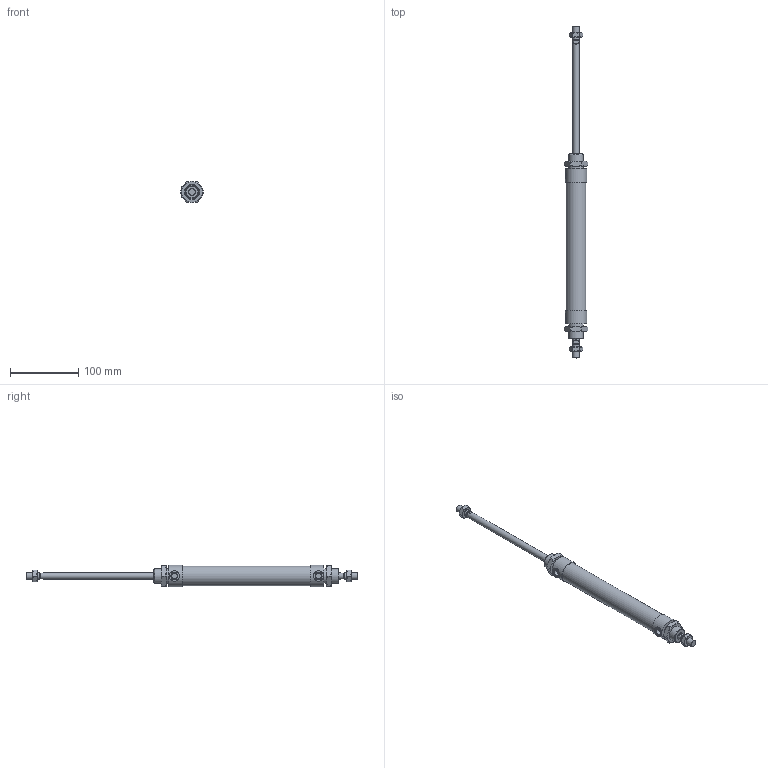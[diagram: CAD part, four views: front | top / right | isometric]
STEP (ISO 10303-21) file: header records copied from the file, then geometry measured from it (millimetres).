
FILE_DESCRIPTION((''),'2;1');
FILE_NAME('L:\Lib-3d\1200\CILINDRI\1232\1232_25_0160.stp','2006-01-05T14:36:36',('medicfa1'),(''),'Autodesk Inventor 10','Autodesk Inventor 10','');
FILE_SCHEMA(('AUTOMOTIVE_DESIGN { 1 0 10303 214 1 1 1 1 }'));
Length unit declared in the file: millimetre
Products named in the file (5): 1232_25_0160; C1232_25_160; S1232_25_160; 1200_25_05; 1200_25_06
Assembly tree (6 placements, depth 2):
  1232_25_0160
    C1232_25_160
    S1232_25_160
    1200_25_05  x2
    1200_25_06  x2
Bounding box: 34.64 x 488 x 31.5 mm (x, y, z)
Volume: 196264.1 mm3; surface area: 55983.4 mm2
Topology: 6 solids, 6 shells, 141 faces, 299 edges, 178 vertices
Faces by surface type: plane 62, cone 54, cylinder 15, bspline 10
Full cylindrical faces by diameter (mm): 8.7 x2, 8.8 x2, 10 x4, 15 x2, 22 x2, 29 x1, 31.5 x2
Entity records: 2620 total; most frequent: CARTESIAN_POINT 721, DIRECTION 390, ORIENTED_EDGE 324, AXIS2_PLACEMENT_3D 177, EDGE_CURVE 162, EDGE_LOOP 136, VERTEX_POINT 110, FACE_OUTER_BOUND 95
